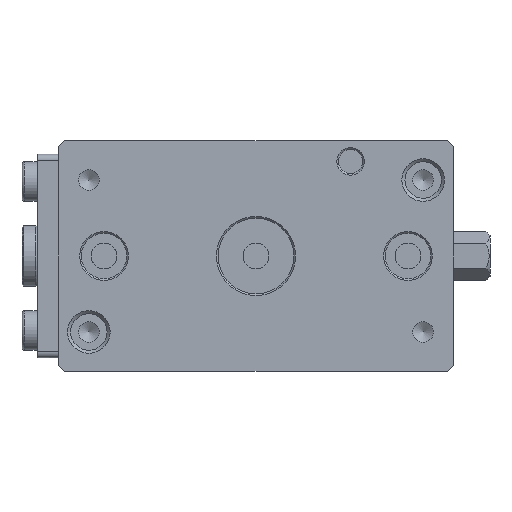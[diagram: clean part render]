
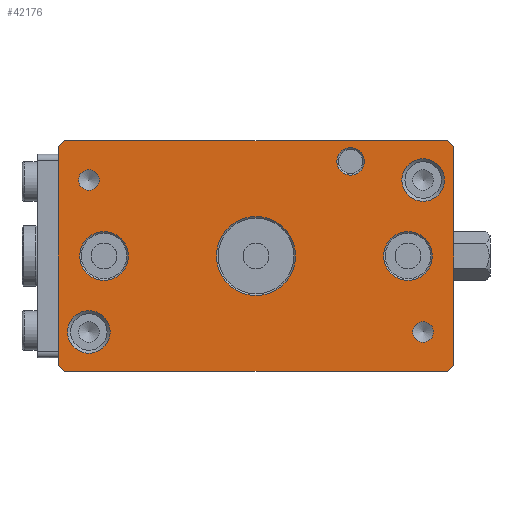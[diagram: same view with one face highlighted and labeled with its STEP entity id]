
A CAD part, front view. The second image highlights one B-rep face of the part: STEP entity #42176.
In plain terms, the highlighted planar face has unit normal (0, -1, 0).
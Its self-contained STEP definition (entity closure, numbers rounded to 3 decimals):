
#142 = FACE_BOUND ( 'NONE', #1893, .T. ) ;
#392 = EDGE_CURVE ( 'NONE', #65342, #65342, #45909, .T. ) ;
#888 = CARTESIAN_POINT ( 'NONE',  ( 55., -56., -28.4 ) ) ;
#1323 = CIRCLE ( 'NONE', #52254, 7. ) ;
#1554 = DIRECTION ( 'NONE',  ( 0., 0., -1. ) ) ;
#1884 = DIRECTION ( 'NONE',  ( 0., 0., 1. ) ) ;
#1893 = EDGE_LOOP ( 'NONE', ( #20970 ) ) ;
#2387 = DIRECTION ( 'NONE',  ( 0.707, 0., -0.707 ) ) ;
#2505 = VERTEX_POINT ( 'NONE', #8741 ) ;
#2530 = EDGE_CURVE ( 'NONE', #57233, #41965, #40300, .T. ) ;
#4539 = AXIS2_PLACEMENT_3D ( 'NONE', #44009, #13514, #61341 ) ;
#6602 = CARTESIAN_POINT ( 'NONE',  ( -65., -56., 36. ) ) ;
#6638 = EDGE_LOOP ( 'NONE', ( #7363 ) ) ;
#7173 = AXIS2_PLACEMENT_3D ( 'NONE', #11930, #22692, #1884 ) ;
#7363 = ORIENTED_EDGE ( 'NONE', *, *, #50587, .T. ) ;
#7777 = CARTESIAN_POINT ( 'NONE',  ( -65., -56., 38. ) ) ;
#7854 = EDGE_CURVE ( 'NONE', #59119, #59119, #13905, .T. ) ;
#8741 = CARTESIAN_POINT ( 'NONE',  ( -65., -56., -36. ) ) ;
#8850 = VERTEX_POINT ( 'NONE', #52157 ) ;
#8995 = EDGE_CURVE ( 'NONE', #45179, #65912, #59018, .T. ) ;
#9043 = DIRECTION ( 'NONE',  ( 0., -1., 0. ) ) ;
#9541 = FACE_BOUND ( 'NONE', #68515, .T. ) ;
#9781 = AXIS2_PLACEMENT_3D ( 'NONE', #13659, #23715, #44839 ) ;
#11651 = AXIS2_PLACEMENT_3D ( 'NONE', #26714, #63464, #21858 ) ;
#11930 = CARTESIAN_POINT ( 'NONE',  ( 50., -56., 0. ) ) ;
#12061 = EDGE_CURVE ( 'NONE', #65697, #65697, #20003, .T. ) ;
#12153 = VECTOR ( 'NONE', #2387, 1000. ) ;
#13514 = DIRECTION ( 'NONE',  ( 0., 1., 0. ) ) ;
#13589 = ORIENTED_EDGE ( 'NONE', *, *, #63174, .T. ) ;
#13650 = DIRECTION ( 'NONE',  ( 0., 0., 1. ) ) ;
#13659 = CARTESIAN_POINT ( 'NONE',  ( -50., -56., 0. ) ) ;
#13905 = CIRCLE ( 'NONE', #11651, 3.4 ) ;
#14054 = VERTEX_POINT ( 'NONE', #40068 ) ;
#14188 = ORIENTED_EDGE ( 'NONE', *, *, #18729, .F. ) ;
#14995 = EDGE_CURVE ( 'NONE', #32469, #32469, #49603, .T. ) ;
#15697 = ORIENTED_EDGE ( 'NONE', *, *, #2530, .F. ) ;
#16083 = FACE_BOUND ( 'NONE', #26129, .T. ) ;
#16126 = ORIENTED_EDGE ( 'NONE', *, *, #50598, .T. ) ;
#16131 = ORIENTED_EDGE ( 'NONE', *, *, #64802, .T. ) ;
#16497 = LINE ( 'NONE', #59812, #37814 ) ;
#17088 = DIRECTION ( 'NONE',  ( 0., 1., 0. ) ) ;
#18729 = EDGE_CURVE ( 'NONE', #27347, #52876, #16497, .T. ) ;
#19817 = DIRECTION ( 'NONE',  ( 0., 0., -1. ) ) ;
#20003 = CIRCLE ( 'NONE', #4539, 13. ) ;
#20080 = ORIENTED_EDGE ( 'NONE', *, *, #14995, .T. ) ;
#20644 = LINE ( 'NONE', #62906, #23055 ) ;
#20844 = EDGE_CURVE ( 'NONE', #48380, #48380, #61123, .T. ) ;
#20956 = VECTOR ( 'NONE', #34443, 1000. ) ;
#20970 = ORIENTED_EDGE ( 'NONE', *, *, #20844, .F. ) ;
#21584 = EDGE_LOOP ( 'NONE', ( #60455, #64987, #14188, #16131, #15697, #25695, #65398, #52976 ) ) ;
#21858 = DIRECTION ( 'NONE',  ( 0., 0., -1. ) ) ;
#22389 = VECTOR ( 'NONE', #1554, 1000. ) ;
#22399 = CARTESIAN_POINT ( 'NONE',  ( -50., -56., 8. ) ) ;
#22692 = DIRECTION ( 'NONE',  ( 0., 1., 0. ) ) ;
#23055 = VECTOR ( 'NONE', #43814, 1000. ) ;
#23715 = DIRECTION ( 'NONE',  ( 0., 1., 0. ) ) ;
#24106 = CARTESIAN_POINT ( 'NONE',  ( 31.113, -56., 35.613 ) ) ;
#24386 = CARTESIAN_POINT ( 'NONE',  ( -55., -56., -25. ) ) ;
#25468 = DIRECTION ( 'NONE',  ( 0., 0., 1. ) ) ;
#25695 = ORIENTED_EDGE ( 'NONE', *, *, #38528, .T. ) ;
#26129 = EDGE_LOOP ( 'NONE', ( #43843 ) ) ;
#26158 = EDGE_CURVE ( 'NONE', #65912, #59845, #28881, .T. ) ;
#26714 = CARTESIAN_POINT ( 'NONE',  ( -55., -56., 25. ) ) ;
#27347 = VERTEX_POINT ( 'NONE', #56110 ) ;
#28881 = LINE ( 'NONE', #38605, #20956 ) ;
#30672 = FACE_BOUND ( 'NONE', #44423, .T. ) ;
#30964 = DIRECTION ( 'NONE',  ( 0.707, 0., 0.707 ) ) ;
#31005 = FACE_OUTER_BOUND ( 'NONE', #21584, .T. ) ;
#32004 = CARTESIAN_POINT ( 'NONE',  ( 65., -56., 38. ) ) ;
#32397 = CARTESIAN_POINT ( 'NONE',  ( -63., -56., -38. ) ) ;
#32469 = VERTEX_POINT ( 'NONE', #22399 ) ;
#33833 = CARTESIAN_POINT ( 'NONE',  ( 0., -56., 13. ) ) ;
#33834 = VECTOR ( 'NONE', #58664, 1000. ) ;
#34356 = CARTESIAN_POINT ( 'NONE',  ( 55., -56., -25. ) ) ;
#34443 = DIRECTION ( 'NONE',  ( -0.707, 0., -0.707 ) ) ;
#34521 = VERTEX_POINT ( 'NONE', #24106 ) ;
#34763 = CARTESIAN_POINT ( 'NONE',  ( 65., -56., 38. ) ) ;
#34917 = LINE ( 'NONE', #56039, #61156 ) ;
#35764 = CIRCLE ( 'NONE', #50142, 7. ) ;
#37077 = CARTESIAN_POINT ( 'NONE',  ( 65., -56., -36. ) ) ;
#37814 = VECTOR ( 'NONE', #42848, 1000. ) ;
#38256 = DIRECTION ( 'NONE',  ( 0., 0., 1. ) ) ;
#38528 = EDGE_CURVE ( 'NONE', #57233, #45179, #20644, .T. ) ;
#38605 = CARTESIAN_POINT ( 'NONE',  ( -63., -56., 38. ) ) ;
#40068 = CARTESIAN_POINT ( 'NONE',  ( 55., -56., 32. ) ) ;
#40262 = DIRECTION ( 'NONE',  ( 0., 0., -1. ) ) ;
#40300 = LINE ( 'NONE', #34763, #53754 ) ;
#41440 = FACE_BOUND ( 'NONE', #52537, .T. ) ;
#41965 = VERTEX_POINT ( 'NONE', #37077 ) ;
#42176 = ADVANCED_FACE ( 'NONE', ( #63566, #16083, #30672, #52507, #9541, #68425, #142, #41440, #31005 ), #58360, .F. ) ;
#42848 = DIRECTION ( 'NONE',  ( -1., 0., 0. ) ) ;
#43062 = EDGE_CURVE ( 'NONE', #2505, #52876, #49858, .T. ) ;
#43427 = CIRCLE ( 'NONE', #63380, 4.5 ) ;
#43814 = DIRECTION ( 'NONE',  ( -0.707, 0., 0.707 ) ) ;
#43843 = ORIENTED_EDGE ( 'NONE', *, *, #392, .T. ) ;
#44009 = CARTESIAN_POINT ( 'NONE',  ( 0., -56., 0. ) ) ;
#44423 = EDGE_LOOP ( 'NONE', ( #58657 ) ) ;
#44839 = DIRECTION ( 'NONE',  ( 0., 0., 1. ) ) ;
#45179 = VERTEX_POINT ( 'NONE', #48403 ) ;
#45909 = CIRCLE ( 'NONE', #7173, 8. ) ;
#46409 = EDGE_LOOP ( 'NONE', ( #20080 ) ) ;
#48380 = VERTEX_POINT ( 'NONE', #888 ) ;
#48403 = CARTESIAN_POINT ( 'NONE',  ( 63., -56., 38. ) ) ;
#48721 = CARTESIAN_POINT ( 'NONE',  ( 50., -56., 8. ) ) ;
#49038 = LINE ( 'NONE', #7777, #22389 ) ;
#49087 = CARTESIAN_POINT ( 'NONE',  ( -55., -56., 21.6 ) ) ;
#49603 = CIRCLE ( 'NONE', #9781, 8. ) ;
#49858 = LINE ( 'NONE', #60933, #12153 ) ;
#50142 = AXIS2_PLACEMENT_3D ( 'NONE', #64572, #17088, #53831 ) ;
#50587 = EDGE_CURVE ( 'NONE', #34521, #34521, #43427, .T. ) ;
#50598 = EDGE_CURVE ( 'NONE', #14054, #14054, #35764, .T. ) ;
#51817 = DIRECTION ( 'NONE',  ( 0., 1., 0. ) ) ;
#52157 = CARTESIAN_POINT ( 'NONE',  ( -55., -56., -18. ) ) ;
#52254 = AXIS2_PLACEMENT_3D ( 'NONE', #24386, #55222, #13650 ) ;
#52507 = FACE_BOUND ( 'NONE', #46409, .T. ) ;
#52537 = EDGE_LOOP ( 'NONE', ( #66944 ) ) ;
#52876 = VERTEX_POINT ( 'NONE', #32397 ) ;
#52976 = ORIENTED_EDGE ( 'NONE', *, *, #26158, .T. ) ;
#53754 = VECTOR ( 'NONE', #19817, 1000. ) ;
#53831 = DIRECTION ( 'NONE',  ( 0., 0., 1. ) ) ;
#53962 = EDGE_LOOP ( 'NONE', ( #13589 ) ) ;
#54166 = DIRECTION ( 'NONE',  ( 0., 1., 0. ) ) ;
#54525 = CARTESIAN_POINT ( 'NONE',  ( 31.113, -56., 31.113 ) ) ;
#54914 = CARTESIAN_POINT ( 'NONE',  ( 65., -56., 36. ) ) ;
#55222 = DIRECTION ( 'NONE',  ( 0., 1., 0. ) ) ;
#55579 = AXIS2_PLACEMENT_3D ( 'NONE', #34356, #9043, #40262 ) ;
#56039 = CARTESIAN_POINT ( 'NONE',  ( 65., -56., -36. ) ) ;
#56110 = CARTESIAN_POINT ( 'NONE',  ( 63., -56., -38. ) ) ;
#56386 = AXIS2_PLACEMENT_3D ( 'NONE', #57684, #51817, #25468 ) ;
#57233 = VERTEX_POINT ( 'NONE', #54914 ) ;
#57284 = EDGE_CURVE ( 'NONE', #59845, #2505, #49038, .T. ) ;
#57684 = CARTESIAN_POINT ( 'NONE',  ( 65., -56., 38. ) ) ;
#58360 = PLANE ( 'NONE',  #56386 ) ;
#58657 = ORIENTED_EDGE ( 'NONE', *, *, #12061, .T. ) ;
#58664 = DIRECTION ( 'NONE',  ( -1., 0., 0. ) ) ;
#59018 = LINE ( 'NONE', #32004, #33834 ) ;
#59119 = VERTEX_POINT ( 'NONE', #49087 ) ;
#59812 = CARTESIAN_POINT ( 'NONE',  ( 65., -56., -38. ) ) ;
#59845 = VERTEX_POINT ( 'NONE', #6602 ) ;
#60455 = ORIENTED_EDGE ( 'NONE', *, *, #57284, .T. ) ;
#60933 = CARTESIAN_POINT ( 'NONE',  ( -63., -56., -38. ) ) ;
#61123 = CIRCLE ( 'NONE', #55579, 3.4 ) ;
#61156 = VECTOR ( 'NONE', #30964, 1000. ) ;
#61341 = DIRECTION ( 'NONE',  ( 0., 0., 1. ) ) ;
#62906 = CARTESIAN_POINT ( 'NONE',  ( 65., -56., 36. ) ) ;
#63174 = EDGE_CURVE ( 'NONE', #8850, #8850, #1323, .T. ) ;
#63380 = AXIS2_PLACEMENT_3D ( 'NONE', #54525, #54166, #38256 ) ;
#63464 = DIRECTION ( 'NONE',  ( 0., -1., 0. ) ) ;
#63566 = FACE_BOUND ( 'NONE', #6638, .T. ) ;
#64572 = CARTESIAN_POINT ( 'NONE',  ( 55., -56., 25. ) ) ;
#64802 = EDGE_CURVE ( 'NONE', #27347, #41965, #34917, .T. ) ;
#64987 = ORIENTED_EDGE ( 'NONE', *, *, #43062, .T. ) ;
#65342 = VERTEX_POINT ( 'NONE', #48721 ) ;
#65398 = ORIENTED_EDGE ( 'NONE', *, *, #8995, .T. ) ;
#65697 = VERTEX_POINT ( 'NONE', #33833 ) ;
#65912 = VERTEX_POINT ( 'NONE', #66182 ) ;
#66182 = CARTESIAN_POINT ( 'NONE',  ( -63., -56., 38. ) ) ;
#66944 = ORIENTED_EDGE ( 'NONE', *, *, #7854, .F. ) ;
#68425 = FACE_BOUND ( 'NONE', #53962, .T. ) ;
#68515 = EDGE_LOOP ( 'NONE', ( #16126 ) ) ;
